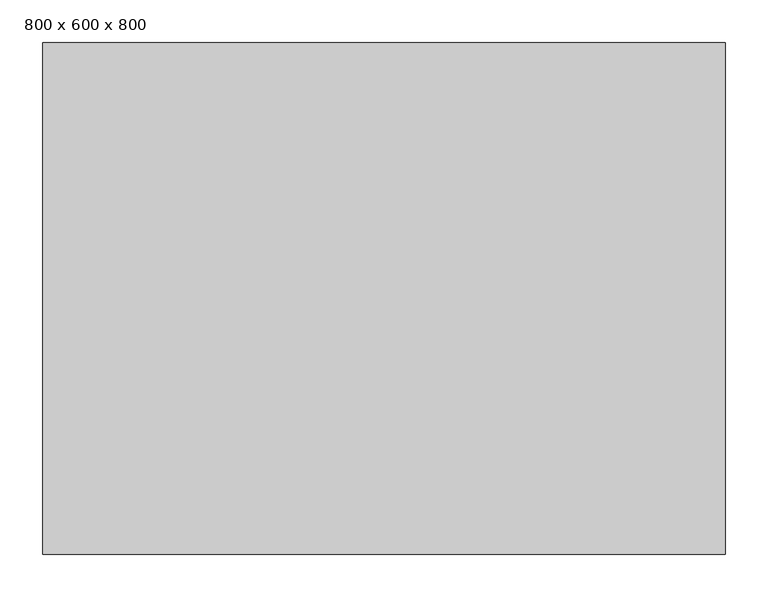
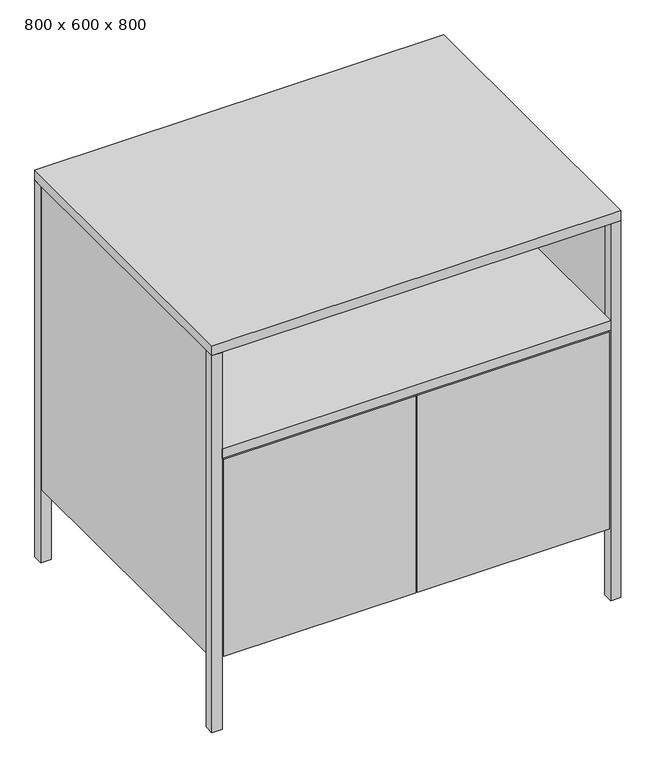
"""IFC4 building model written with IfcOpenShell, lengths in millimetres: furniture geometry, Kommode-01 : 800 x 600 x 800."""

from ifc_helpers import new_model, si_unit, frame, origin, origin_with_axes, place, context, project, spatial, polyline, outline, extrude, source, transform, mapped, element, save


def furniture_800_x_600_x_800_ba27f6a6(model_context):
    return source(origin(), model_context, "Body", "SweptSolid", [
        extrude(outline(polyline([(-1.5, -200.0), (-377.0, -200.0), (-377.0, -180.0), (-1.5, -180.0), (-1.5, -200.0)])), frame((0.0, 0.0, 150.0), z_axis=(0.0, 0.0, 1.0), x_axis=(1.0, 0.0, 0.0)), (0.0, 0.0, 1.0), 407.0),
        extrude(outline(polyline([(377.0, -200.0), (1.5, -200.0), (1.5, -180.0), (377.0, -180.0), (377.0, -200.0)])), frame((0.0, 0.0, 150.0), z_axis=(0.0, 0.0, 1.0), x_axis=(1.0, 0.0, 0.0)), (0.0, 0.0, 1.0), 407.0),
        extrude(outline(polyline([(380.0, 380.0), (380.0, -200.0), (-380.0, -200.0), (-380.0, 380.0), (380.0, 380.0)])), frame((0.0, 0.0, 560.0), z_axis=(0.0, 0.0, 1.0), x_axis=(1.0, 0.0, 0.0)), (0.0, 0.0, 1.0), 20.0),
        extrude(outline(polyline([(380.0, 380.0), (380.0, -180.0), (-380.0, -180.0), (-380.0, 380.0), (380.0, 380.0)])), frame((0.0, 0.0, 150.0), z_axis=(0.0, 0.0, 1.0), x_axis=(1.0, 0.0, 0.0)), (0.0, 0.0, 1.0), 20.0),
        extrude(outline(polyline([(398.0, 380.0), (398.0, -180.0), (380.0, -180.0), (380.0, 380.0), (398.0, 380.0)])), frame((0.0, 0.0, 150.0), z_axis=(0.0, 0.0, 1.0), x_axis=(1.0, 0.0, 0.0)), (0.0, 0.0, 1.0), 630.0),
        extrude(outline(polyline([(380.0, 380.0), (-380.0, 380.0), (-380.0, 398.0), (380.0, 398.0), (380.0, 380.0)])), frame((0.0, 0.0, 150.0), z_axis=(0.0, 0.0, 1.0), x_axis=(1.0, 0.0, 0.0)), (0.0, 0.0, 1.0), 630.0),
        extrude(outline(polyline([(-398.0, -180.0), (-398.0, 380.0), (-380.0, 380.0), (-380.0, -180.0), (-398.0, -180.0)])), frame((0.0, 0.0, 150.0), z_axis=(0.0, 0.0, 1.0), x_axis=(1.0, 0.0, 0.0)), (0.0, 0.0, 1.0), 630.0),
        extrude(outline(polyline([(400.0, 400.0), (400.0, -200.0), (-400.0, -200.0), (-400.0, 400.0), (400.0, 400.0)])), frame((0.0, 0.0, 780.0), z_axis=(0.0, 0.0, 1.0), x_axis=(1.0, 0.0, 0.0)), (0.0, 0.0, 1.0), 20.0),
        extrude(outline(polyline([(-380.0, 400.0), (-380.0, 380.0), (-400.0, 380.0), (-400.0, 400.0), (-380.0, 400.0)])), origin_with_axes(), (0.0, 0.0, 1.0), 780.0),
        extrude(outline(polyline([(400.0, 380.0), (380.0, 380.0), (380.0, 400.0), (400.0, 400.0), (400.0, 380.0)])), origin_with_axes(), (0.0, 0.0, 1.0), 780.0),
        extrude(outline(polyline([(-380.0, -200.0), (-400.0, -200.0), (-400.0, -180.0), (-380.0, -180.0), (-380.0, -200.0)])), origin_with_axes(), (0.0, 0.0, 1.0), 780.0),
        extrude(outline(polyline([(400.0, -200.0), (380.0, -200.0), (380.0, -180.0), (400.0, -180.0), (400.0, -200.0)])), origin_with_axes(), (0.0, 0.0, 1.0), 780.0),
    ])


if __name__ == "__main__":
    model = new_model("IFC4")
    model_context = context("Model", 3, world=origin())
    ifc_project = project(units=[si_unit("LENGTHUNIT", "METRE", prefix="MILLI")], contexts=[model_context])
    site = spatial("IfcSite", under=ifc_project)
    building = spatial("IfcBuilding", under=site)
    placement = place(None, origin())
    furniture_800_x_600_x_800_shape = furniture_800_x_600_x_800_ba27f6a6(model_context)
    element("IfcFurniture", 1, ObjectType="Kommode-01 : 800 x 600 x 800", at=placement, inside=building, context=model_context, shape_type="MappedRepresentation", body=[
        mapped(furniture_800_x_600_x_800_shape, transform((0.0, 0.0, 0.0), x_axis=(1.0, 0.0, 0.0), y_axis=(0.0, 1.0, 0.0), z_axis=(0.0, 0.0, 1.0))),
    ])
    save(model, "model.ifc")
